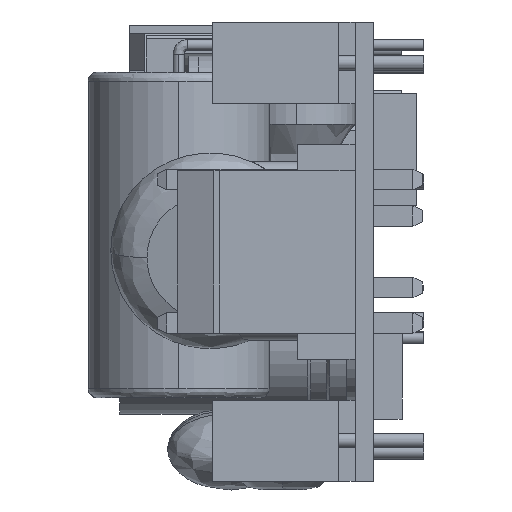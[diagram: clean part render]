
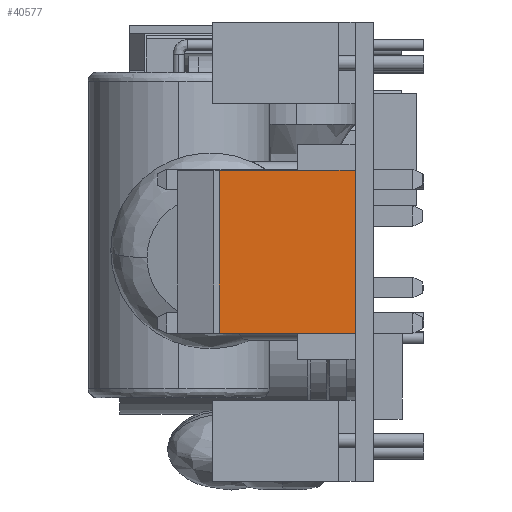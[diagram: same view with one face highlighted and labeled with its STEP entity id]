
A CAD part, left-side view. The second image highlights one B-rep face of the part: STEP entity #40577.
In plain terms, the highlighted planar face has unit normal (-1, 0, 0).
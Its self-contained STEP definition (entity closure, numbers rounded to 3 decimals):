
#2275 = ORIENTED_EDGE ( 'NONE', *, *, #30513, .T. ) ;
#3419 = VECTOR ( 'NONE', #38700, 1000. ) ;
#3791 = VERTEX_POINT ( 'NONE', #23574 ) ;
#7506 = CARTESIAN_POINT ( 'NONE',  ( 359.028, 8.5, -325.116 ) ) ;
#9469 = CARTESIAN_POINT ( 'NONE',  ( 359.028, 8.5, -334.116 ) ) ;
#9806 = CARTESIAN_POINT ( 'NONE',  ( 359.028, 1., -334.116 ) ) ;
#10271 = VERTEX_POINT ( 'NONE', #74151 ) ;
#14906 = VECTOR ( 'NONE', #80089, 1000. ) ;
#15589 = PLANE ( 'NONE',  #22624 ) ;
#15869 = DIRECTION ( 'NONE',  ( 0., 0., 1. ) ) ;
#16107 = VERTEX_POINT ( 'NONE', #9806 ) ;
#16959 = CARTESIAN_POINT ( 'NONE',  ( 359.028, 8.5, -334.116 ) ) ;
#18724 = EDGE_LOOP ( 'NONE', ( #28997, #2275, #24237, #67109 ) ) ;
#22624 = AXIS2_PLACEMENT_3D ( 'NONE', #9469, #54026, #15869 ) ;
#23574 = CARTESIAN_POINT ( 'NONE',  ( 359.028, 8.5, -325.116 ) ) ;
#24237 = ORIENTED_EDGE ( 'NONE', *, *, #29443, .T. ) ;
#26166 = DIRECTION ( 'NONE',  ( 0., -1., 0. ) ) ;
#26485 = DIRECTION ( 'NONE',  ( 0., 0., 1. ) ) ;
#28997 = ORIENTED_EDGE ( 'NONE', *, *, #80867, .T. ) ;
#29443 = EDGE_CURVE ( 'NONE', #10271, #3791, #37220, .T. ) ;
#30513 = EDGE_CURVE ( 'NONE', #16107, #10271, #54938, .T. ) ;
#37220 = LINE ( 'NONE', #7506, #3419 ) ;
#38700 = DIRECTION ( 'NONE',  ( 0., 1., 0. ) ) ;
#39016 = CARTESIAN_POINT ( 'NONE',  ( 359.028, 1., -335.556 ) ) ;
#39203 = EDGE_CURVE ( 'NONE', #3791, #75497, #63687, .T. ) ;
#40069 = CARTESIAN_POINT ( 'NONE',  ( 359.028, 8.5, -334.116 ) ) ;
#40577 = ADVANCED_FACE ( 'NONE', ( #54389 ), #15589, .T. ) ;
#51524 = CARTESIAN_POINT ( 'NONE',  ( 359.028, 8.5, -334.116 ) ) ;
#54026 = DIRECTION ( 'NONE',  ( -1., 0., 0. ) ) ;
#54389 = FACE_OUTER_BOUND ( 'NONE', #18724, .T. ) ;
#54938 = LINE ( 'NONE', #39016, #71774 ) ;
#57103 = LINE ( 'NONE', #51524, #71976 ) ;
#63687 = LINE ( 'NONE', #16959, #14906 ) ;
#67109 = ORIENTED_EDGE ( 'NONE', *, *, #39203, .T. ) ;
#71774 = VECTOR ( 'NONE', #26485, 1000. ) ;
#71976 = VECTOR ( 'NONE', #26166, 1000. ) ;
#74151 = CARTESIAN_POINT ( 'NONE',  ( 359.028, 1., -325.116 ) ) ;
#75497 = VERTEX_POINT ( 'NONE', #40069 ) ;
#80089 = DIRECTION ( 'NONE',  ( 0., 0., -1. ) ) ;
#80867 = EDGE_CURVE ( 'NONE', #75497, #16107, #57103, .T. ) ;
